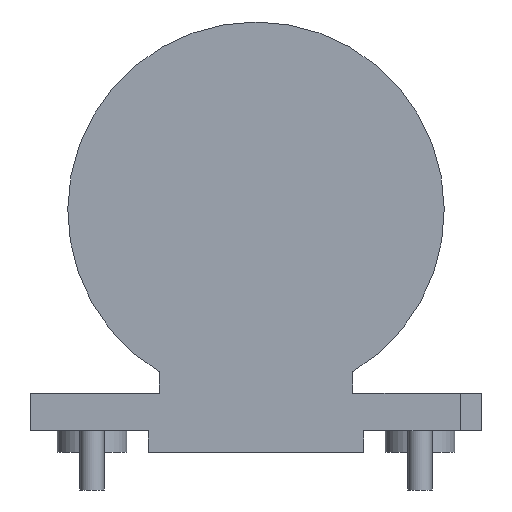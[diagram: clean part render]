
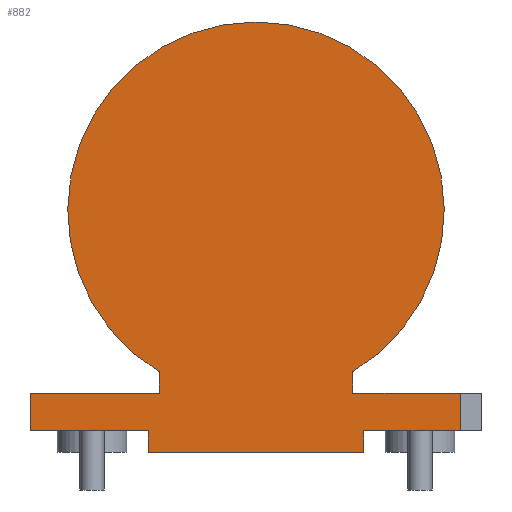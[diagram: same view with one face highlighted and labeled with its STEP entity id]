
A CAD part, front view. The second image highlights one B-rep face of the part: STEP entity #882.
In plain terms, the highlighted planar face has unit normal (0, -1, 0).
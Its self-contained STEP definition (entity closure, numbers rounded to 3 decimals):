
#52=CIRCLE('',#958,17.5);
#91=FACE_OUTER_BOUND('',#156,.T.);
#156=EDGE_LOOP('',(#708,#709,#710,#711,#712,#713,#714,#715,#716,#717,#718,
#719));
#171=LINE('',#1218,#270);
#177=LINE('',#1230,#276);
#195=LINE('',#1272,#294);
#233=LINE('',#1384,#332);
#235=LINE('',#1389,#334);
#247=LINE('',#1418,#346);
#248=LINE('',#1421,#347);
#249=LINE('',#1422,#348);
#250=LINE('',#1424,#349);
#251=LINE('',#1426,#350);
#252=LINE('',#1427,#351);
#270=VECTOR('',#978,10.);
#276=VECTOR('',#988,10.);
#294=VECTOR('',#1020,10.);
#332=VECTOR('',#1130,10.);
#334=VECTOR('',#1134,10.);
#346=VECTOR('',#1160,10.);
#347=VECTOR('',#1163,10.);
#348=VECTOR('',#1164,10.);
#349=VECTOR('',#1165,10.);
#350=VECTOR('',#1166,10.);
#351=VECTOR('',#1167,10.);
#369=VERTEX_POINT('',#1215);
#370=VERTEX_POINT('',#1217);
#374=VERTEX_POINT('',#1229);
#390=VERTEX_POINT('',#1269);
#391=VERTEX_POINT('',#1271);
#428=VERTEX_POINT('',#1380);
#429=VERTEX_POINT('',#1382);
#430=VERTEX_POINT('',#1386);
#431=VERTEX_POINT('',#1388);
#442=VERTEX_POINT('',#1420);
#443=VERTEX_POINT('',#1423);
#444=VERTEX_POINT('',#1425);
#451=EDGE_CURVE('',#369,#370,#171,.T.);
#457=EDGE_CURVE('',#374,#370,#177,.T.);
#478=EDGE_CURVE('',#391,#390,#195,.T.);
#527=EDGE_CURVE('',#429,#428,#233,.T.);
#529=EDGE_CURVE('',#431,#430,#235,.T.);
#543=EDGE_CURVE('',#431,#369,#247,.T.);
#544=EDGE_CURVE('',#430,#428,#52,.T.);
#545=EDGE_CURVE('',#442,#429,#248,.T.);
#546=EDGE_CURVE('',#391,#442,#249,.T.);
#547=EDGE_CURVE('',#390,#443,#250,.T.);
#548=EDGE_CURVE('',#444,#443,#251,.T.);
#549=EDGE_CURVE('',#374,#444,#252,.T.);
#708=ORIENTED_EDGE('',*,*,#451,.F.);
#709=ORIENTED_EDGE('',*,*,#543,.F.);
#710=ORIENTED_EDGE('',*,*,#529,.T.);
#711=ORIENTED_EDGE('',*,*,#544,.T.);
#712=ORIENTED_EDGE('',*,*,#527,.F.);
#713=ORIENTED_EDGE('',*,*,#545,.F.);
#714=ORIENTED_EDGE('',*,*,#546,.F.);
#715=ORIENTED_EDGE('',*,*,#478,.T.);
#716=ORIENTED_EDGE('',*,*,#547,.T.);
#717=ORIENTED_EDGE('',*,*,#548,.F.);
#718=ORIENTED_EDGE('',*,*,#549,.F.);
#719=ORIENTED_EDGE('',*,*,#457,.T.);
#832=PLANE('',#957);
#882=ADVANCED_FACE('',(#91),#832,.T.);
#957=AXIS2_PLACEMENT_3D('',#1417,#1158,#1159);
#958=AXIS2_PLACEMENT_3D('',#1419,#1161,#1162);
#978=DIRECTION('',(0.,0.,-1.));
#988=DIRECTION('',(1.,0.,0.));
#1020=DIRECTION('',(1.,0.,0.));
#1130=DIRECTION('',(0.,0.,1.));
#1134=DIRECTION('',(0.,0.,1.));
#1158=DIRECTION('center_axis',(0.,-1.,0.));
#1159=DIRECTION('ref_axis',(1.,0.,0.));
#1160=DIRECTION('',(1.,0.,0.));
#1161=DIRECTION('center_axis',(0.,-1.,0.));
#1162=DIRECTION('ref_axis',(1.,0.,0.));
#1163=DIRECTION('',(1.,0.,0.));
#1164=DIRECTION('',(0.,0.,1.));
#1165=DIRECTION('',(0.,0.,-1.));
#1166=DIRECTION('',(-1.,0.,0.));
#1167=DIRECTION('',(0.,0.,-1.));
#1215=CARTESIAN_POINT('',(19.,-13.5,3.5));
#1217=CARTESIAN_POINT('',(19.,-13.5,0.));
#1218=CARTESIAN_POINT('',(19.,-13.5,0.));
#1229=CARTESIAN_POINT('',(10.,-13.5,0.));
#1230=CARTESIAN_POINT('',(-21.,-13.5,0.));
#1269=CARTESIAN_POINT('',(-10.,-13.5,0.));
#1271=CARTESIAN_POINT('',(-21.,-13.5,0.));
#1272=CARTESIAN_POINT('',(-21.,-13.5,0.));
#1380=CARTESIAN_POINT('',(-9.,-13.5,5.492));
#1382=CARTESIAN_POINT('',(-9.,-13.5,3.5));
#1384=CARTESIAN_POINT('',(-9.,-13.5,3.5));
#1386=CARTESIAN_POINT('',(9.,-13.5,5.492));
#1388=CARTESIAN_POINT('',(9.,-13.5,3.5));
#1389=CARTESIAN_POINT('',(9.,-13.5,3.5));
#1417=CARTESIAN_POINT('Origin',(-21.,-13.5,0.));
#1418=CARTESIAN_POINT('',(-21.,-13.5,3.5));
#1419=CARTESIAN_POINT('Origin',(0.,-13.5,20.5));
#1420=CARTESIAN_POINT('',(-21.,-13.5,3.5));
#1421=CARTESIAN_POINT('',(-21.,-13.5,3.5));
#1422=CARTESIAN_POINT('',(-21.,-13.5,0.));
#1423=CARTESIAN_POINT('',(-10.,-13.5,-2.));
#1424=CARTESIAN_POINT('',(-10.,-13.5,0.));
#1425=CARTESIAN_POINT('',(10.,-13.5,-2.));
#1426=CARTESIAN_POINT('',(-21.,-13.5,-2.));
#1427=CARTESIAN_POINT('',(10.,-13.5,0.));
